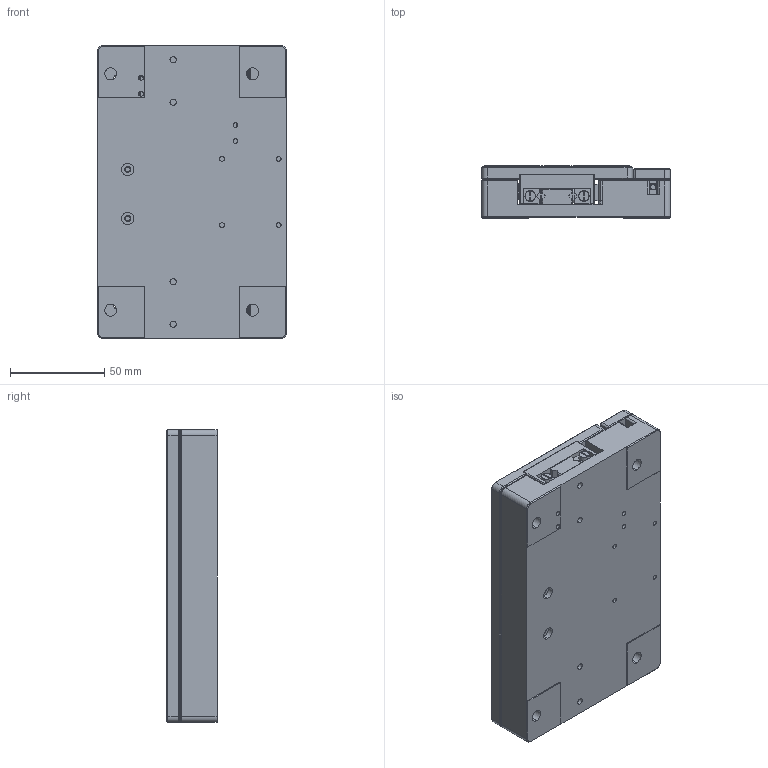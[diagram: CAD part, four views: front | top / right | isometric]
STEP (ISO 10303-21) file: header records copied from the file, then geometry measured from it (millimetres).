
FILE_DESCRIPTION (( 'STEP AP203' ), '1' );
FILE_NAME ('ls3-90T.STEP', '2023-04-26T02:50:45', ( '微软用户' ), ( '微软中国' ), 'SwSTEP 2.0', 'SolidWorks 2021', '' );
FILE_SCHEMA (( 'CONFIG_CONTROL_DESIGN' ));
Length unit declared in the file: millimetre
Products named in the file (12): BG_LS3-80T_V3; MS15; ls3-90T; hexagon socket countersunk head screws gb_GB_FASTENER_SCREWS_HSCHS M4X8-N; _VRT_3155_A_BASE; CERAMIC150-8_5-1_5; HT_LS3-80T_V3; JM304; _VRT_3155_A_TABLE; DZ_LS3-80T_V3; _VRT_3155_A_ROLLER_CAGE; VRT_3155A_90_ASM
Assembly tree (19 placements, depth 3):
  ls3-90T
    DZ_LS3-80T_V3
    VRT_3155A_90_ASM
      _VRT_3155_A_BASE
      _VRT_3155_A_ROLLER_CAGE  x2
      _VRT_3155_A_TABLE
    JM304
    HT_LS3-80T_V3
    BG_LS3-80T_V3
    MS15
    CERAMIC150-8_5-1_5
    hexagon socket countersunk head screws gb_GB_FASTENER_SCREWS_HSCHS M4X8-N  x8
Bounding box: 100 x 27.5 x 155 mm (x, y, z)
Volume: 354102.1 mm3; surface area: 146707.6 mm2
Topology: 20 solids, 21 shells, 1963 faces, 4954 edges, 3118 vertices
Faces by surface type: plane 921, cylinder 696, cone 280, bspline 50, torus 16
Entity records: 58599 total; most frequent: CARTESIAN_POINT 14539, ORIENTED_EDGE 8932, DIRECTION 8695, EDGE_CURVE 4466, AXIS2_PLACEMENT_3D 3114, VERTEX_POINT 2851, LINE 2467, VECTOR 2467
